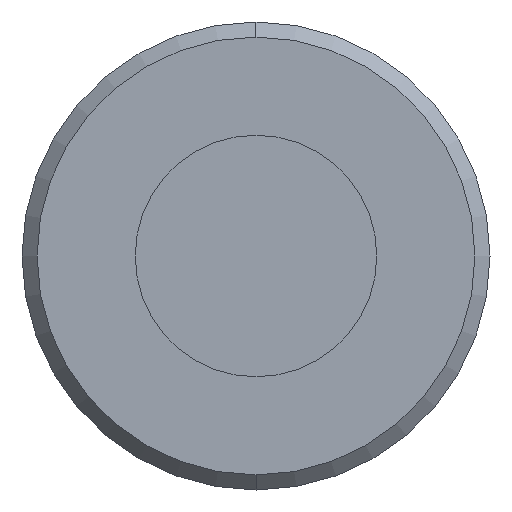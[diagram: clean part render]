
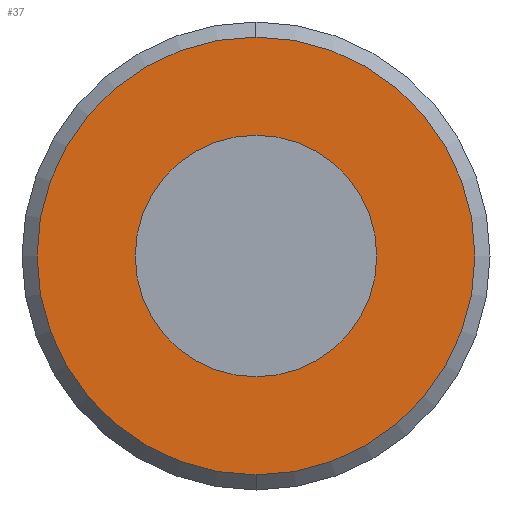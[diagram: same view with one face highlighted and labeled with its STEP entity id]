
A CAD part, left-side view. The second image highlights one B-rep face of the part: STEP entity #37.
In plain terms, the highlighted planar face has unit normal (-1, 0, 0).
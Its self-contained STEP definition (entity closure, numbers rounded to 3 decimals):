
#10 = CARTESIAN_POINT ( 'NONE',  ( 32.5, 0., 8. ) ) ;
#15 = VERTEX_POINT ( 'NONE', #478 ) ;
#24 = EDGE_CURVE ( 'NONE', #488, #466, #41, .T. ) ;
#37 = ADVANCED_FACE ( 'NONE', ( #600, #249 ), #153, .F. ) ;
#41 = CIRCLE ( 'NONE', #189, 14.5 ) ;
#47 = DIRECTION ( 'NONE',  ( 1., 0., 0. ) ) ;
#54 = DIRECTION ( 'NONE',  ( 0., 0., -1. ) ) ;
#60 = DIRECTION ( 'NONE',  ( 0., 0., 1. ) ) ;
#62 = DIRECTION ( 'NONE',  ( -1., 0., 0. ) ) ;
#87 = AXIS2_PLACEMENT_3D ( 'NONE', #449, #671, #663 ) ;
#112 = CARTESIAN_POINT ( 'NONE',  ( 32.5, 0., 14.5 ) ) ;
#122 = CIRCLE ( 'NONE', #705, 8. ) ;
#137 = EDGE_CURVE ( 'NONE', #466, #488, #679, .T. ) ;
#153 = PLANE ( 'NONE',  #469 ) ;
#189 = AXIS2_PLACEMENT_3D ( 'NONE', #586, #603, #60 ) ;
#216 = ORIENTED_EDGE ( 'NONE', *, *, #607, .F. ) ;
#220 = CARTESIAN_POINT ( 'NONE',  ( 32.5, 8., 0. ) ) ;
#225 = VERTEX_POINT ( 'NONE', #10 ) ;
#226 = ORIENTED_EDGE ( 'NONE', *, *, #137, .T. ) ;
#249 = FACE_OUTER_BOUND ( 'NONE', #504, .T. ) ;
#253 = DIRECTION ( 'NONE',  ( -1., 0., 0. ) ) ;
#265 = EDGE_CURVE ( 'NONE', #15, #225, #580, .T. ) ;
#341 = CARTESIAN_POINT ( 'NONE',  ( 32.5, 0., 0. ) ) ;
#418 = CARTESIAN_POINT ( 'NONE',  ( 32.5, 0., -14.5 ) ) ;
#449 = CARTESIAN_POINT ( 'NONE',  ( 32.5, 0., 0. ) ) ;
#466 = VERTEX_POINT ( 'NONE', #418 ) ;
#469 = AXIS2_PLACEMENT_3D ( 'NONE', #220, #47, #54 ) ;
#473 = CARTESIAN_POINT ( 'NONE',  ( 32.5, 0., 0. ) ) ;
#476 = AXIS2_PLACEMENT_3D ( 'NONE', #473, #253, #696 ) ;
#478 = CARTESIAN_POINT ( 'NONE',  ( 32.5, 0., -8. ) ) ;
#488 = VERTEX_POINT ( 'NONE', #112 ) ;
#502 = ORIENTED_EDGE ( 'NONE', *, *, #265, .F. ) ;
#504 = EDGE_LOOP ( 'NONE', ( #226, #601 ) ) ;
#580 = CIRCLE ( 'NONE', #476, 8. ) ;
#586 = CARTESIAN_POINT ( 'NONE',  ( 32.5, 0., 0. ) ) ;
#600 = FACE_BOUND ( 'NONE', #612, .T. ) ;
#601 = ORIENTED_EDGE ( 'NONE', *, *, #24, .T. ) ;
#603 = DIRECTION ( 'NONE',  ( -1., 0., 0. ) ) ;
#607 = EDGE_CURVE ( 'NONE', #225, #15, #122, .T. ) ;
#612 = EDGE_LOOP ( 'NONE', ( #216, #502 ) ) ;
#663 = DIRECTION ( 'NONE',  ( 0., 0., 1. ) ) ;
#671 = DIRECTION ( 'NONE',  ( -1., 0., 0. ) ) ;
#675 = DIRECTION ( 'NONE',  ( 0., 0., 1. ) ) ;
#679 = CIRCLE ( 'NONE', #87, 14.5 ) ;
#696 = DIRECTION ( 'NONE',  ( 0., 0., 1. ) ) ;
#705 = AXIS2_PLACEMENT_3D ( 'NONE', #341, #62, #675 ) ;
